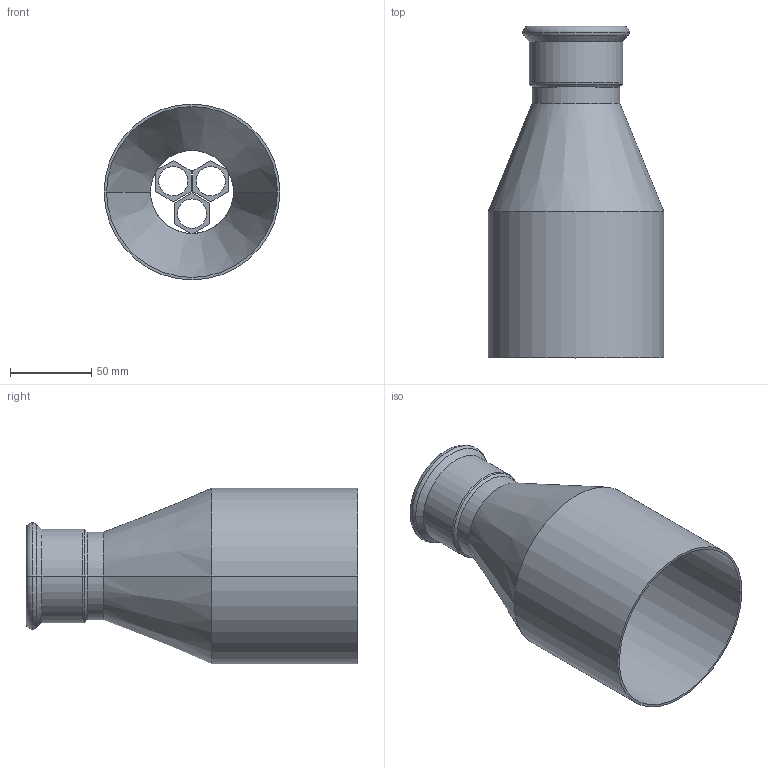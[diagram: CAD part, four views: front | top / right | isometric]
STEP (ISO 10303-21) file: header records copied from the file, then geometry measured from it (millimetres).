
FILE_DESCRIPTION(('OneSpaceDesigner STEP Export'),'2;1');
FILE_NAME('R2707 54x108.stp','2010-06-09T14:05:18',(''),(''),'OneSpace Designer STEP processor for AP214 (Solid Model)','OneSpace Modeling 15.00A 14-Mar-2007 (C) CoCreate Software GmbH','');
FILE_SCHEMA(('AUTOMOTIVE_DESIGN { 1 0 10303 214 1 1 1 1 }'));
Length unit declared in the file: millimetre
Products named in the file (2): R2707_54x108
Assembly tree (1 placements, depth 2):
  R2707_54x108
    R2707_54x108
Bounding box: 108 x 204 x 108 mm (x, y, z)
Volume: 84300.7 mm3; surface area: 116581.1 mm2
Topology: 1 solids, 1 shells, 68 faces, 164 edges, 103 vertices
Faces by surface type: plane 31, cylinder 23, cone 8, torus 6
Entity records: 1764 total; most frequent: ORIENTED_EDGE 328, CARTESIAN_POINT 281, DIRECTION 259, EDGE_CURVE 164, VERTEX_POINT 103, VECTOR 97, LINE 97, AXIS2_PLACEMENT_3D 81
